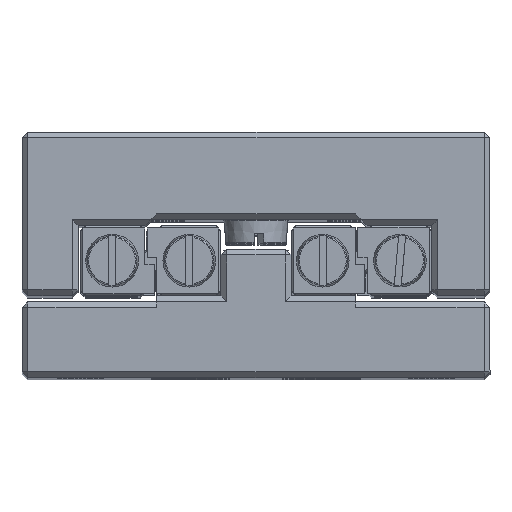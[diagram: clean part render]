
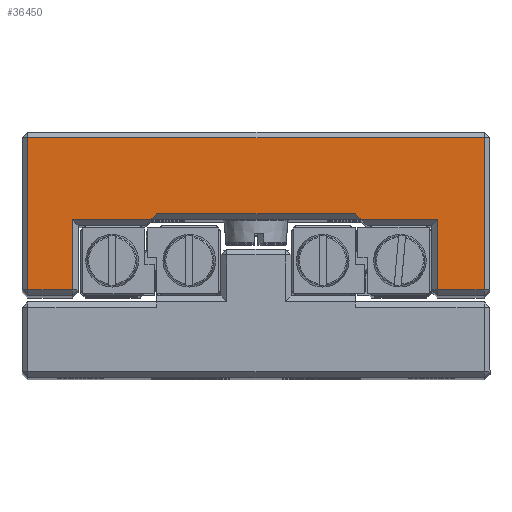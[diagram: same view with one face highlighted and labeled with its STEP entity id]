
A CAD part, top view. The second image highlights one B-rep face of the part: STEP entity #36450.
In plain terms, the highlighted planar face has unit normal (0, 0, 1).
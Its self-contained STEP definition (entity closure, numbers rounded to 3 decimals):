
#2382=PLANE('',#39489);
#4233=FACE_OUTER_BOUND('',#6439,.T.);
#6439=EDGE_LOOP('',(#30995,#30996,#30997,#30998,#30999,#31000,#31001,#31002,
#31003,#31004,#31005,#31006));
#9497=LINE('',#59994,#12669);
#9513=LINE('',#60020,#12685);
#9524=LINE('',#60037,#12696);
#9527=LINE('',#60042,#12699);
#9531=LINE('',#60051,#12703);
#9534=LINE('',#60060,#12706);
#9535=LINE('',#60066,#12707);
#9539=LINE('',#60076,#12711);
#9549=LINE('',#60100,#12721);
#9551=LINE('',#60104,#12723);
#9552=LINE('',#60105,#12724);
#9553=LINE('',#60106,#12725);
#12669=VECTOR('',#47526,10.);
#12685=VECTOR('',#47552,10.);
#12696=VECTOR('',#47571,10.);
#12699=VECTOR('',#47576,10.);
#12703=VECTOR('',#47588,10.);
#12706=VECTOR('',#47601,10.);
#12707=VECTOR('',#47610,10.);
#12711=VECTOR('',#47620,10.);
#12721=VECTOR('',#47640,10.);
#12723=VECTOR('',#47644,10.);
#12724=VECTOR('',#47645,10.);
#12725=VECTOR('',#47646,10.);
#17189=VERTEX_POINT('',#59991);
#17190=VERTEX_POINT('',#59993);
#17195=VERTEX_POINT('',#60018);
#17197=VERTEX_POINT('',#60035);
#17198=VERTEX_POINT('',#60040);
#17199=VERTEX_POINT('',#60049);
#17200=VERTEX_POINT('',#60058);
#17201=VERTEX_POINT('',#60065);
#17203=VERTEX_POINT('',#60073);
#17204=VERTEX_POINT('',#60075);
#17213=VERTEX_POINT('',#60098);
#17214=VERTEX_POINT('',#60103);
#21917=EDGE_CURVE('',#17189,#17190,#9497,.T.);
#21933=EDGE_CURVE('',#17195,#17189,#9513,.T.);
#21944=EDGE_CURVE('',#17197,#17195,#9524,.T.);
#21947=EDGE_CURVE('',#17198,#17197,#9527,.T.);
#21951=EDGE_CURVE('',#17199,#17198,#9531,.T.);
#21954=EDGE_CURVE('',#17200,#17199,#9534,.T.);
#21955=EDGE_CURVE('',#17201,#17200,#9535,.T.);
#21959=EDGE_CURVE('',#17203,#17204,#9539,.T.);
#21971=EDGE_CURVE('',#17213,#17201,#9549,.T.);
#21973=EDGE_CURVE('',#17190,#17214,#9551,.T.);
#21974=EDGE_CURVE('',#17204,#17213,#9552,.T.);
#21975=EDGE_CURVE('',#17214,#17203,#9553,.T.);
#30995=ORIENTED_EDGE('',*,*,#21973,.F.);
#30996=ORIENTED_EDGE('',*,*,#21917,.F.);
#30997=ORIENTED_EDGE('',*,*,#21933,.F.);
#30998=ORIENTED_EDGE('',*,*,#21944,.F.);
#30999=ORIENTED_EDGE('',*,*,#21947,.F.);
#31000=ORIENTED_EDGE('',*,*,#21951,.F.);
#31001=ORIENTED_EDGE('',*,*,#21954,.F.);
#31002=ORIENTED_EDGE('',*,*,#21955,.F.);
#31003=ORIENTED_EDGE('',*,*,#21971,.F.);
#31004=ORIENTED_EDGE('',*,*,#21974,.F.);
#31005=ORIENTED_EDGE('',*,*,#21959,.F.);
#31006=ORIENTED_EDGE('',*,*,#21975,.F.);
#36450=ADVANCED_FACE('',(#4233),#2382,.F.);
#39489=AXIS2_PLACEMENT_3D('',#60102,#47642,#47643);
#47526=DIRECTION('',(0.,1.,0.));
#47552=DIRECTION('',(-1.,0.,0.));
#47571=DIRECTION('',(0.,-1.,0.));
#47576=DIRECTION('',(1.,0.,0.));
#47588=DIRECTION('',(0.,1.,0.));
#47601=DIRECTION('',(-1.,0.,0.));
#47610=DIRECTION('',(0.,-1.,0.));
#47620=DIRECTION('',(-1.,0.,0.));
#47640=DIRECTION('',(-1.,0.,0.));
#47642=DIRECTION('center_axis',(0.,0.,
-1.));
#47643=DIRECTION('ref_axis',(-1.,0.,0.));
#47644=DIRECTION('',(-1.,0.,0.));
#47645=DIRECTION('',(-0.707,-0.707,0.));
#47646=DIRECTION('',(-0.707,0.707,0.));
#59991=CARTESIAN_POINT('',(-18.197,7.5,35.));
#59993=CARTESIAN_POINT('',(-18.197,13.5,35.));
#59994=CARTESIAN_POINT('',(-18.197,10.5,35.));
#60018=CARTESIAN_POINT('',(-14.197,7.5,35.));
#60020=CARTESIAN_POINT('',(-23.697,7.5,35.));
#60035=CARTESIAN_POINT('',(-14.197,20.5,35.));
#60037=CARTESIAN_POINT('',(-14.197,17.5,35.));
#60040=CARTESIAN_POINT('',(-53.197,20.5,35.));
#60042=CARTESIAN_POINT('',(-43.697,20.5,35.));
#60049=CARTESIAN_POINT('',(-53.197,7.5,35.));
#60051=CARTESIAN_POINT('',(-53.197,10.5,35.));
#60058=CARTESIAN_POINT('',(-49.397,7.5,35.));
#60060=CARTESIAN_POINT('',(-41.297,7.5,35.));
#60065=CARTESIAN_POINT('',(-49.397,13.5,35.));
#60066=CARTESIAN_POINT('',(-49.397,13.5,35.));
#60073=CARTESIAN_POINT('',(-25.197,14.,35.));
#60075=CARTESIAN_POINT('',(-42.197,14.,35.));
#60076=CARTESIAN_POINT('',(-29.197,14.,35.));
#60098=CARTESIAN_POINT('',(-42.697,13.5,35.));
#60100=CARTESIAN_POINT('',(-38.447,13.5,35.));
#60102=CARTESIAN_POINT('Origin',(-33.697,14.,35.));
#60103=CARTESIAN_POINT('',(-24.697,13.5,35.));
#60104=CARTESIAN_POINT('',(-26.197,13.5,35.));
#60105=CARTESIAN_POINT('',(-42.697,13.5,35.));
#60106=CARTESIAN_POINT('',(-24.197,13.,35.));
